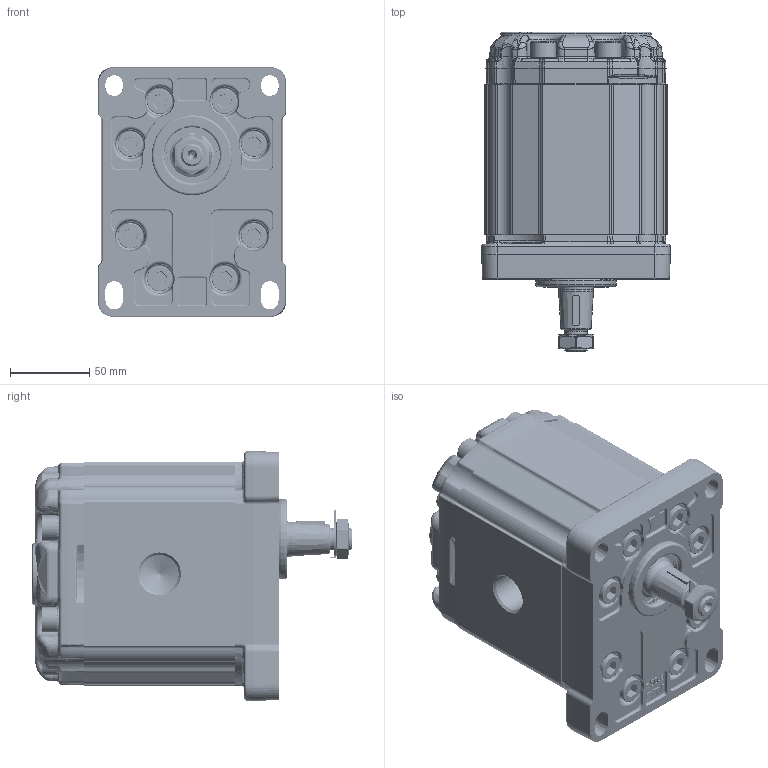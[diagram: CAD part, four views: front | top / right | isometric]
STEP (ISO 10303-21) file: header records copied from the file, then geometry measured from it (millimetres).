
FILE_DESCRIPTION(/* description */ ('Unknown'),/* implementation_level */ '2;1');
FILE_NAME(/* name */ 'X3P8101AEDA',/* time_stamp */ '2023-09-08T14:39:06+02:00',/* author */ ('Unknown'),/* organization */ ('Unknown'),/* preprocessor_version */ 'ST-DEVELOPER v16.7',/* originating_system */ 'Solid Edge',/* authorisation */ 'Unknown');
FILE_SCHEMA (('AUTOMOTIVE_DESIGN {1 0 10303 214 3 1 1}'));
Products named in the file (5): X3P8101AEDA; X3P01; 3A; X3EDH95; XP301-A
Assembly tree (4 placements, depth 2):
  X3P8101AEDA
    X3P01
    3A
    X3EDH95
    XP301-A
Bounding box: 119.2 x 202 x 157.8 mm (x, y, z)
Volume: 2226680.9 mm3; surface area: 225173.3 mm2
Topology: 4 solids, 5 shells, 4574 faces, 14022 edges, 8764 vertices
Faces by surface type: cylinder 1835, plane 1392, bspline 997, torus 200, cone 137, sphere 13
Full cylindrical faces by diameter (mm): 2 x2, 10 x16, 10.35 x30, 10.5 x1, 14 x2, 15.8 x16, 16 x16, 22 x1, 24.117 x2, 24.98 x1, 25 x2, 25.968 x1, 28.16 x1, 30.291 x1, 31 x1, 31.293 x1, 32.742 x1, 34.956 x1, 35 x1, 35.2 x1, 37 x1, 50.8 x1
Entity records: 310275 total; most frequent: CARTESIAN_POINT 163734, ORIENTED_EDGE 27126, DIRECTION 20341, EDGE_CURVE 13563, VERTEX_POINT 8627, AXIS2_PLACEMENT_3D 7741, FACE_BOUND 5022, EDGE_LOOP 5018
